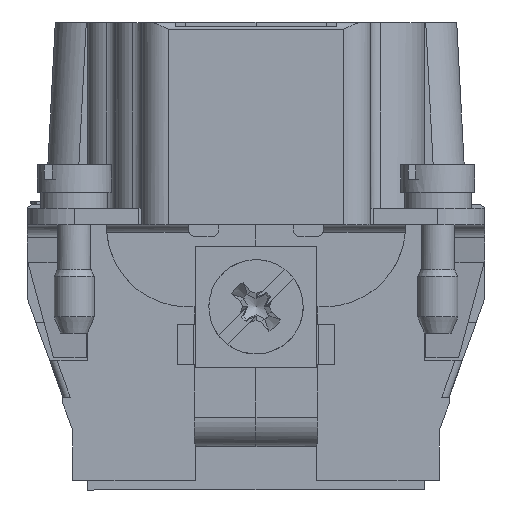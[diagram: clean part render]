
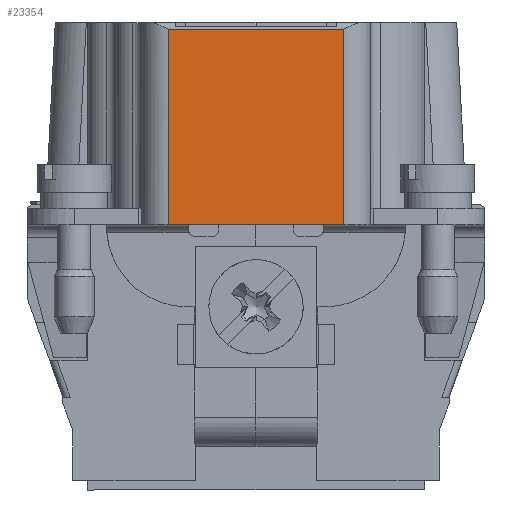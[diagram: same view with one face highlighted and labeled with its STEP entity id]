
A CAD part, left-side view. The second image highlights one B-rep face of the part: STEP entity #23354.
In plain terms, the highlighted planar face has unit normal (-1, 0, 0).
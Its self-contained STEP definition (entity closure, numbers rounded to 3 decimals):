
#23354=ADVANCED_FACE('',(#27869),#25871,.F.);
#25871=PLANE('',#80804);
#27869=FACE_OUTER_BOUND('',#30928,.T.);
#30928=EDGE_LOOP('',(#37954,#37955,#37956,#37957));
#37954=ORIENTED_EDGE('',*,*,#58387,.F.);
#37955=ORIENTED_EDGE('',*,*,#58353,.F.);
#37956=ORIENTED_EDGE('',*,*,#58390,.F.);
#37957=ORIENTED_EDGE('',*,*,#58391,.F.);
#52063=VERTEX_POINT('',#112722);
#52064=VERTEX_POINT('',#112724);
#52085=VERTEX_POINT('',#112803);
#52087=VERTEX_POINT('',#112814);
#58353=EDGE_CURVE('',#52063,#52064,#68140,.T.);
#58387=EDGE_CURVE('',#52064,#52085,#68162,.T.);
#58390=EDGE_CURVE('',#52087,#52063,#68163,.T.);
#58391=EDGE_CURVE('',#52085,#52087,#68164,.T.);
#68140=LINE('',#112723,#72588);
#68162=LINE('',#112802,#72610);
#68163=LINE('',#112813,#72611);
#68164=LINE('',#112815,#72612);
#72588=VECTOR('',#88305,1.);
#72610=VECTOR('',#88367,1.);
#72611=VECTOR('',#88372,1.);
#72612=VECTOR('',#88373,1.);
#80804=AXIS2_PLACEMENT_3D('',#112816,#88374,#88375);
#88305=DIRECTION('',(0.,1.,0.));
#88367=DIRECTION('',(0.,0.,1.));
#88372=DIRECTION('',(0.,0.,-1.));
#88373=DIRECTION('',(0.,-1.,0.));
#88374=DIRECTION('',(1.,0.,0.));
#88375=DIRECTION('',(0.,1.,0.));
#112722=CARTESIAN_POINT('',(-54.75,-6.5,0.));
#112723=CARTESIAN_POINT('',(-54.75,-6.5,0.));
#112724=CARTESIAN_POINT('',(-54.75,6.5,0.));
#112802=CARTESIAN_POINT('',(-54.75,6.5,0.));
#112803=CARTESIAN_POINT('',(-54.75,6.5,14.5));
#112813=CARTESIAN_POINT('',(-54.75,-6.5,14.5));
#112814=CARTESIAN_POINT('',(-54.75,-6.5,14.5));
#112815=CARTESIAN_POINT('',(-54.75,6.5,14.5));
#112816=CARTESIAN_POINT('',(-54.75,-6.6,-0.1));
